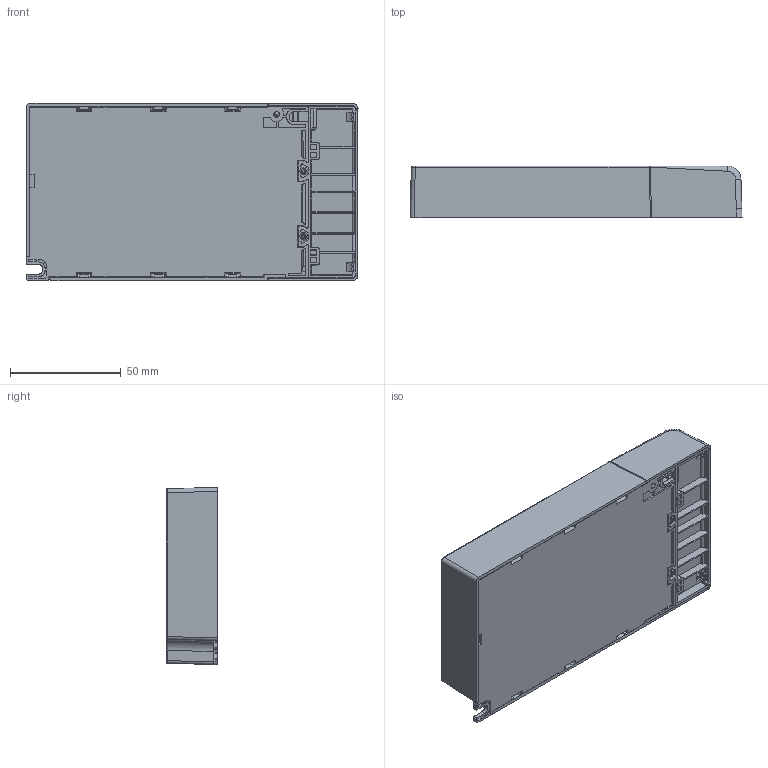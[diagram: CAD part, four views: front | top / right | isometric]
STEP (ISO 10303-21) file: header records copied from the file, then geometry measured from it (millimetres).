
FILE_DESCRIPTION (( 'STEP AP214' ), '1' );
FILE_NAME ('LDL40¦¨«~¹Ï(14) 107,05,07 ENEC.STEP', '2018-12-18T06:41:50', ( '' ), ( '' ), 'SwSTEP 2.0', 'SolidWorks 2017', '' );
FILE_SCHEMA (( 'AUTOMOTIVE_DESIGN' ));
Length unit declared in the file: millimetre
Products named in the file (17): LDL40 PCB示意圖(KZ7 8P,KZ7D 2P) ENEC 107,03,06; BNGHG端子台KZ7-6P 示意圖 106,01,25; 鏡射LDL40 Core 示意圖 105,11,08; LDL40成品圖(14) 107,05,07 ENEC; LDL40 下蓋(M-F028-01試-M)G56A0002100 ENEC 107,02,05; LDL40 Bobbin(M-F036-00-M)G410A510009; LDL40 側上蓋(M-F029-03試-M)G56A0003100 107,03,19; BNGHG端子台KZ7-2P 示意圖 橘橘 106,01,13; LDL40 扣件(M-F031-00-M)G56A0005201; LDL40 上蓋(M-F027-00-M)G56A0001100; LDL40 Core 示意圖 105,11,08; TP3x12N 自攻牙螺絲(M-B020-00-S)G75A1300472示意圖; LDL40 側下蓋(M-F030-03試-M)G56A0004100 107,03,19; ST2P 2x5N 自攻牙螺絲 示意圖 106,12,01 割尾; BNGHG端子台KZ7D-2P 示意圖 106,07,12; LDL40 Bobbin,Core 106,03,09; LDL40 PCB-1070305
Assembly tree (17 placements, depth 4):
  LDL40成品圖(14) 107,05,07 ENEC
    LDL40 上蓋(M-F027-00-M)G56A0001100
    LDL40 下蓋(M-F028-01試-M)G56A0002100 ENEC 107,02,05
    LDL40 PCB示意圖(KZ7 8P,KZ7D 2P) ENEC 107,03,06
      BNGHG端子台KZ7-2P 示意圖 橘橘 106,01,13
      BNGHG端子台KZ7-6P 示意圖 106,01,25
      BNGHG端子台KZ7D-2P 示意圖 106,07,12
      LDL40 Bobbin,Core 106,03,09
        LDL40 Core 示意圖 105,11,08
        LDL40 Bobbin(M-F036-00-M)G410A510009
        鏡射LDL40 Core 示意圖 105,11,08
      LDL40 PCB-1070305
    LDL40 側下蓋(M-F030-03試-M)G56A0004100 107,03,19
    LDL40 側上蓋(M-F029-03試-M)G56A0003100 107,03,19
    ST2P 2x5N 自攻牙螺絲 示意圖 106,12,01 割尾  x2
    TP3x12N 自攻牙螺絲(M-B020-00-S)G75A1300472示意圖
    LDL40 扣件(M-F031-00-M)G56A0005201
Bounding box: 149.86 x 23.2 x 80 mm (x, y, z)
Volume: 81130.6 mm3; surface area: 117796.8 mm2
Topology: 31 solids, 31 shells, 3695 faces, 10095 edges, 6577 vertices
Faces by surface type: plane 2440, cylinder 925, bspline 204, torus 46, sphere 40, cone 40
Entity records: 127611 total; most frequent: CARTESIAN_POINT 38239, ORIENTED_EDGE 19802, DIRECTION 16399, EDGE_CURVE 9901, VECTOR 7359, LINE 7359, VERTEX_POINT 6477, AXIS2_PLACEMENT_3D 4520
